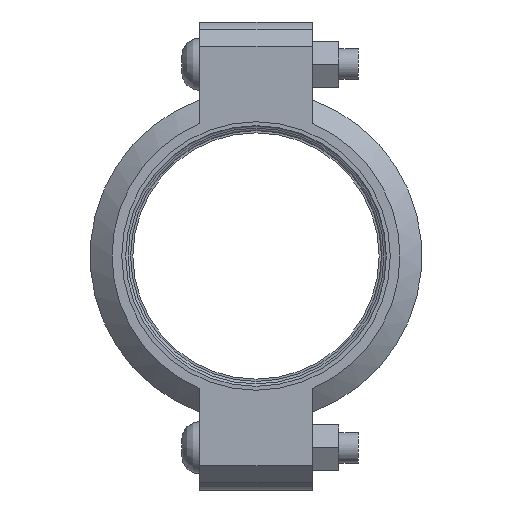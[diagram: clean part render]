
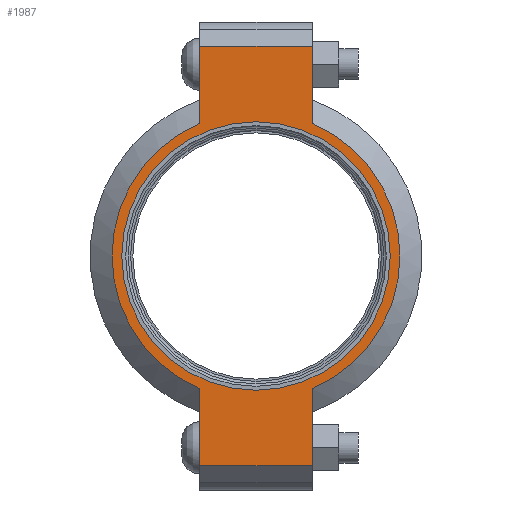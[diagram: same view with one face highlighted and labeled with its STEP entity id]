
A CAD part, left-side view. The second image highlights one B-rep face of the part: STEP entity #1987.
In plain terms, the highlighted planar face has unit normal (-1, 0, 0) as drawn and (0, 0, 1) by its records, which use the part's own axes.
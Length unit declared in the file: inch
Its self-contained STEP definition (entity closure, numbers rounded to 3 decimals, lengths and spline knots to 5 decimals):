
#176=LINE('',#3521,#273);
#184=LINE('',#3557,#281);
#191=LINE('',#3578,#288);
#200=LINE('',#3610,#297);
#201=LINE('',#3614,#298);
#202=LINE('',#3616,#299);
#273=VECTOR('',#2865,0.3937);
#281=VECTOR('',#2881,0.3937);
#288=VECTOR('',#2900,0.3937);
#297=VECTOR('',#2925,0.3937);
#298=VECTOR('',#2930,0.3937);
#299=VECTOR('',#2931,0.3937);
#355=FACE_BOUND('',#605,.T.);
#399=PLANE('',#2326);
#487=FACE_OUTER_BOUND('',#604,.T.);
#604=EDGE_LOOP('',(#1708,#1709,#1710,#1711,#1712,#1713,#1714,#1715));
#605=EDGE_LOOP('',(#1716));
#777=CIRCLE('',#2327,2.95);
#778=CIRCLE('',#2328,2.95);
#779=CIRCLE('',#2329,2.75);
#941=VERTEX_POINT('',#3518);
#942=VERTEX_POINT('',#3520);
#953=VERTEX_POINT('',#3552);
#954=VERTEX_POINT('',#3556);
#961=VERTEX_POINT('',#3575);
#962=VERTEX_POINT('',#3577);
#972=VERTEX_POINT('',#3613);
#973=VERTEX_POINT('',#3615);
#974=VERTEX_POINT('',#3618);
#1186=EDGE_CURVE('',#942,#941,#176,.T.);
#1200=EDGE_CURVE('',#954,#953,#184,.T.);
#1210=EDGE_CURVE('',#962,#961,#191,.T.);
#1225=EDGE_CURVE('',#954,#941,#200,.T.);
#1226=EDGE_CURVE('',#953,#962,#777,.T.);
#1227=EDGE_CURVE('',#972,#961,#201,.T.);
#1228=EDGE_CURVE('',#972,#973,#202,.T.);
#1229=EDGE_CURVE('',#973,#942,#778,.T.);
#1230=EDGE_CURVE('',#974,#974,#779,.T.);
#1708=ORIENTED_EDGE('',*,*,#1225,.F.);
#1709=ORIENTED_EDGE('',*,*,#1200,.T.);
#1710=ORIENTED_EDGE('',*,*,#1226,.T.);
#1711=ORIENTED_EDGE('',*,*,#1210,.T.);
#1712=ORIENTED_EDGE('',*,*,#1227,.F.);
#1713=ORIENTED_EDGE('',*,*,#1228,.T.);
#1714=ORIENTED_EDGE('',*,*,#1229,.T.);
#1715=ORIENTED_EDGE('',*,*,#1186,.T.);
#1716=ORIENTED_EDGE('',*,*,#1230,.T.);
#1987=ADVANCED_FACE('',(#487,#355),#399,.T.);
#2326=AXIS2_PLACEMENT_3D('',#3611,#2926,#2927);
#2327=AXIS2_PLACEMENT_3D('',#3612,#2928,#2929);
#2328=AXIS2_PLACEMENT_3D('',#3617,#2932,#2933);
#2329=AXIS2_PLACEMENT_3D('',#3619,#2934,#2935);
#2865=DIRECTION('',(1.,0.,0.));
#2881=DIRECTION('',(-1.,0.,0.));
#2900=DIRECTION('',(-1.,0.,0.));
#2925=DIRECTION('',(0.,-1.,0.));
#2926=DIRECTION('center_axis',(0.,0.,1.));
#2927=DIRECTION('ref_axis',(-1.,0.,0.));
#2928=DIRECTION('center_axis',(0.,0.,1.));
#2929=DIRECTION('ref_axis',(1.,0.,0.));
#2930=DIRECTION('',(0.,1.,0.));
#2931=DIRECTION('',(1.,0.,0.));
#2932=DIRECTION('center_axis',(0.,0.,1.));
#2933=DIRECTION('ref_axis',(1.,0.,0.));
#2934=DIRECTION('center_axis',(0.,0.,-1.));
#2935=DIRECTION('ref_axis',(1.,0.,0.));
#3518=CARTESIAN_POINT('',(4.295,-1.15,1.065));
#3520=CARTESIAN_POINT('',(2.71662,-1.15,1.065));
#3521=CARTESIAN_POINT('',(4.795,-1.15,1.065));
#3552=CARTESIAN_POINT('',(2.71662,1.15,1.065));
#3556=CARTESIAN_POINT('',(4.295,1.15,1.065));
#3557=CARTESIAN_POINT('',(-4.795,1.15,1.065));
#3575=CARTESIAN_POINT('',(-4.295,1.15,1.065));
#3577=CARTESIAN_POINT('',(-2.71662,1.15,1.065));
#3578=CARTESIAN_POINT('',(-4.795,1.15,1.065));
#3610=CARTESIAN_POINT('',(4.295,-0.575,1.065));
#3611=CARTESIAN_POINT('Origin',(0.,0.,
1.065));
#3612=CARTESIAN_POINT('Origin',(0.,0.,1.065));
#3613=CARTESIAN_POINT('',(-4.295,-1.15,1.065));
#3614=CARTESIAN_POINT('',(-4.295,0.575,1.065));
#3615=CARTESIAN_POINT('',(-2.71662,-1.15,1.065));
#3616=CARTESIAN_POINT('',(4.795,-1.15,1.065));
#3617=CARTESIAN_POINT('Origin',(0.,0.,1.065));
#3618=CARTESIAN_POINT('',(-2.75,0.,1.065));
#3619=CARTESIAN_POINT('Origin',(0.,0.,1.065));
